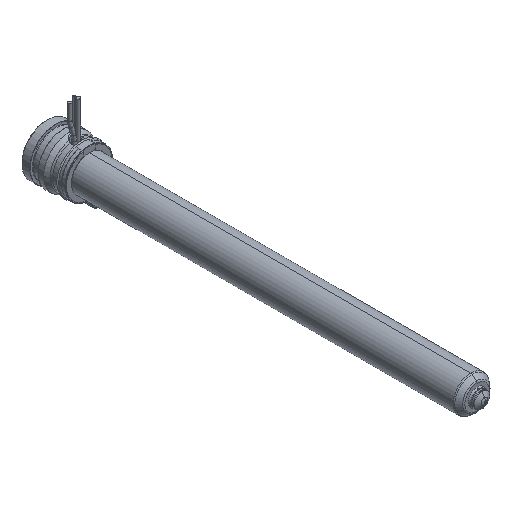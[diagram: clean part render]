
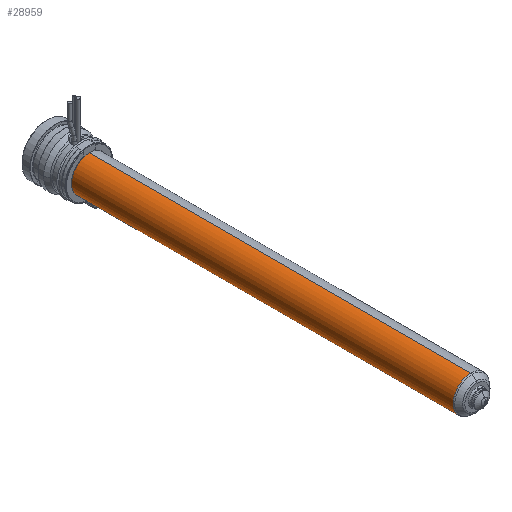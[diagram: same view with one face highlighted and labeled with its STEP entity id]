
A CAD part, isometric view. The second image highlights one B-rep face of the part: STEP entity #28959.
In plain terms, the highlighted cylindrical face has radius 9 mm (diameter 18 mm), a partial arc.
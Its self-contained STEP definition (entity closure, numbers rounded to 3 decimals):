
#28350=CARTESIAN_POINT('',(0.,-215.836,0.));
#28351=DIRECTION('',(0.,-1.,0.));
#28352=DIRECTION('',(0.,0.,1.));
#28353=AXIS2_PLACEMENT_3D('',#28350,#28351,#28352);
#28358=CARTESIAN_POINT('',(0.,-22.,0.));
#28359=DIRECTION('',(0.,-1.,0.));
#28360=DIRECTION('',(0.,0.,1.));
#28361=AXIS2_PLACEMENT_3D('',#28358,#28359,#28360);
#28366=DIRECTION('',(0.,-1.,0.));
#28367=VECTOR('',#28366,193.836);
#28368=CARTESIAN_POINT('',(0.,-22.,9.));
#28369=LINE('',#28368,#28367);
#28381=DIRECTION('',(0.,-1.,0.));
#28382=VECTOR('',#28381,193.836);
#28383=CARTESIAN_POINT('',(0.,-22.,-9.));
#28384=LINE('',#28383,#28382);
#28576=CARTESIAN_POINT('',(0.,-22.,9.));
#28577=CARTESIAN_POINT('',(0.,-215.836,9.));
#28578=VERTEX_POINT('',#28576);
#28579=VERTEX_POINT('',#28577);
#28602=CARTESIAN_POINT('',(0.,-22.,-9.));
#28603=CARTESIAN_POINT('',(0.,-215.836,-9.));
#28604=VERTEX_POINT('',#28602);
#28605=VERTEX_POINT('',#28603);
#28945=CARTESIAN_POINT('',(0.,-7.7,0.));
#28946=DIRECTION('',(0.,-1.,0.));
#28947=DIRECTION('',(0.,0.,1.));
#28948=AXIS2_PLACEMENT_3D('',#28945,#28946,#28947);
#28949=CYLINDRICAL_SURFACE('',#28948,9.);
#28951=ORIENTED_EDGE('',*,*,#28950,.T.);
#28952=ORIENTED_EDGE('',*,*,#28940,.T.);
#28954=ORIENTED_EDGE('',*,*,#28953,.F.);
#28956=ORIENTED_EDGE('',*,*,#28955,.F.);
#28957=EDGE_LOOP('',(#28951,#28952,#28954,#28956));
#28958=FACE_OUTER_BOUND('',#28957,.F.);
#28959=ADVANCED_FACE('',(#28958),#28949,.T.);
#28354=CIRCLE('',#28353,9.);
#28362=CIRCLE('',#28361,9.);
#28940=EDGE_CURVE('',#28579,#28605,#28354,.T.);
#28950=EDGE_CURVE('',#28578,#28579,#28369,.T.);
#28953=EDGE_CURVE('',#28604,#28605,#28384,.T.);
#28955=EDGE_CURVE('',#28578,#28604,#28362,.T.);
